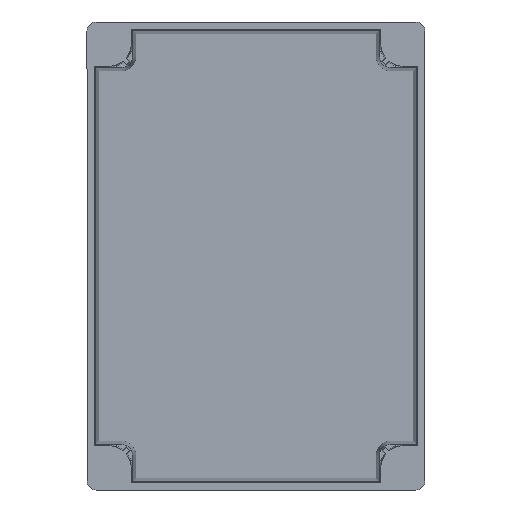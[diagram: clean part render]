
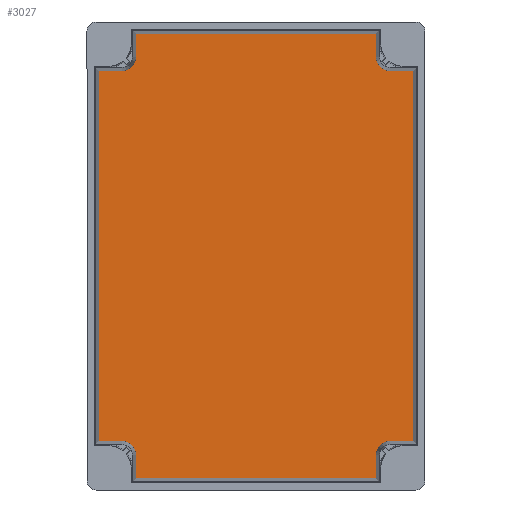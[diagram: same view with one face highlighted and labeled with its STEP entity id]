
A CAD part, front view. The second image highlights one B-rep face of the part: STEP entity #3027.
In plain terms, the highlighted planar face has unit normal (0, -1, 0).
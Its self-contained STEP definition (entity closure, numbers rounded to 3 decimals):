
#1397 = CARTESIAN_POINT ( 'NONE',  ( 46.219, 49.1, -76.634 ) ) ;
#1398 = DIRECTION ( 'NONE',  ( 0., 0., 1. ) ) ;
#1399 = VECTOR ( 'NONE', #1398, 1000. ) ;
#1400 = CARTESIAN_POINT ( 'NONE',  ( 46.219, 49.1, -76.634 ) ) ;
#1401 = LINE ( 'NONE', #1400, #1399 ) ;
#1402 = CARTESIAN_POINT ( 'NONE',  ( 46.219, 49.1, -85.469 ) ) ;
#1407 = CARTESIAN_POINT ( 'NONE',  ( -51.634, 49.1, -71.219 ) ) ;
#1410 = DIRECTION ( 'NONE',  ( 1., 0., 0. ) ) ;
#1411 = VECTOR ( 'NONE', #1410, 1000. ) ;
#1412 = CARTESIAN_POINT ( 'NONE',  ( -47.529, 49.1, -85.469 ) ) ;
#1413 = LINE ( 'NONE', #1412, #1411 ) ;
#1414 = CARTESIAN_POINT ( 'NONE',  ( 51.634, 49.1, -71.219 ) ) ;
#1415 = DIRECTION ( 'NONE',  ( 0., 0., 1. ) ) ;
#1416 = DIRECTION ( 'NONE',  ( 0., 1., 0. ) ) ;
#1417 = CARTESIAN_POINT ( 'NONE',  ( 51.634, 49.1, -76.634 ) ) ;
#1418 = AXIS2_PLACEMENT_3D ( 'NONE', #1417, #1416, #1415 ) ;
#1419 = CIRCLE ( 'NONE', #1418, 5.415 ) ;
#1450 = DIRECTION ( 'NONE',  ( -1., 0., 0. ) ) ;
#1451 = VECTOR ( 'NONE', #1450, 1000. ) ;
#1452 = CARTESIAN_POINT ( 'NONE',  ( 61.779, 49.1, 71.219 ) ) ;
#1453 = LINE ( 'NONE', #1452, #1451 ) ;
#1457 = DIRECTION ( 'NONE',  ( 1., 0., 0. ) ) ;
#1458 = VECTOR ( 'NONE', #1457, 1000. ) ;
#1459 = CARTESIAN_POINT ( 'NONE',  ( -61.779, 49.1, -71.219 ) ) ;
#1460 = LINE ( 'NONE', #1459, #1458 ) ;
#1461 = CIRCLE ( 'NONE', #1471, 5.415 ) ;
#1470 = CARTESIAN_POINT ( 'NONE',  ( -51.634, 49.1, -76.634 ) ) ;
#1471 = AXIS2_PLACEMENT_3D ( 'NONE', #1470, #1474, #1473 ) ;
#1472 = CARTESIAN_POINT ( 'NONE',  ( -46.219, 49.1, -76.634 ) ) ;
#1473 = DIRECTION ( 'NONE',  ( 0., 0., 1. ) ) ;
#1474 = DIRECTION ( 'NONE',  ( 0., 1., 0. ) ) ;
#1479 = DIRECTION ( 'NONE',  ( 1., 0., 0. ) ) ;
#1480 = VECTOR ( 'NONE', #1479, 1000. ) ;
#1481 = CARTESIAN_POINT ( 'NONE',  ( 61.779, 49.1, -71.219 ) ) ;
#1482 = LINE ( 'NONE', #1481, #1480 ) ;
#1483 = CARTESIAN_POINT ( 'NONE',  ( 60.469, 49.1, -71.219 ) ) ;
#1498 = DIRECTION ( 'NONE',  ( 0., 0., 1. ) ) ;
#1499 = VECTOR ( 'NONE', #1498, 1000. ) ;
#1500 = CARTESIAN_POINT ( 'NONE',  ( 60.469, 49.1, -72.529 ) ) ;
#1501 = LINE ( 'NONE', #1500, #1499 ) ;
#1502 = CARTESIAN_POINT ( 'NONE',  ( 60.469, 49.1, 71.219 ) ) ;
#1503 = CARTESIAN_POINT ( 'NONE',  ( -46.219, 49.1, -85.469 ) ) ;
#1504 = DIRECTION ( 'NONE',  ( 0., 0., -1. ) ) ;
#1505 = VECTOR ( 'NONE', #1504, 1000. ) ;
#1506 = CARTESIAN_POINT ( 'NONE',  ( -46.219, 49.1, -76.634 ) ) ;
#1507 = LINE ( 'NONE', #1506, #1505 ) ;
#3027 = ADVANCED_FACE ( 'NONE', ( #4817 ), #4823, .F. ) ;
#3028 = ORIENTED_EDGE ( 'NONE', *, *, #3029, .T. ) ;
#3029 = EDGE_CURVE ( 'NONE', #3030, #3031, #4812, .T. ) ;
#3030 = VERTEX_POINT ( 'NONE', #4723 ) ;
#3031 = VERTEX_POINT ( 'NONE', #4722 ) ;
#3032 = ORIENTED_EDGE ( 'NONE', *, *, #3033, .T. ) ;
#3033 = EDGE_CURVE ( 'NONE', #3031, #3034, #4721, .T. ) ;
#3034 = VERTEX_POINT ( 'NONE', #4717 ) ;
#3035 = ORIENTED_EDGE ( 'NONE', *, *, #3036, .T. ) ;
#3036 = EDGE_CURVE ( 'NONE', #3034, #3037, #4716, .T. ) ;
#3037 = VERTEX_POINT ( 'NONE', #4712 ) ;
#3038 = ORIENTED_EDGE ( 'NONE', *, *, #3039, .T. ) ;
#3039 = EDGE_CURVE ( 'NONE', #3037, #3040, #4736, .T. ) ;
#3040 = VERTEX_POINT ( 'NONE', #4732 ) ;
#3052 = EDGE_LOOP ( 'NONE', ( #3028, #3032, #3035, #3038, #3056, #3059, #3062, #3502, #3495, #3503, #3505, #3439, #3434, #3499, #3507, #3510 ) ) ;
#3056 = ORIENTED_EDGE ( 'NONE', *, *, #3057, .T. ) ;
#3057 = EDGE_CURVE ( 'NONE', #3040, #3058, #4758, .T. ) ;
#3058 = VERTEX_POINT ( 'NONE', #4753 ) ;
#3059 = ORIENTED_EDGE ( 'NONE', *, *, #3060, .T. ) ;
#3060 = EDGE_CURVE ( 'NONE', #3058, #3061, #4752, .T. ) ;
#3061 = VERTEX_POINT ( 'NONE', #4748 ) ;
#3062 = ORIENTED_EDGE ( 'NONE', *, *, #3063, .T. ) ;
#3063 = EDGE_CURVE ( 'NONE', #3061, #3064, #4747, .T. ) ;
#3064 = VERTEX_POINT ( 'NONE', #4743 ) ;
#3433 = VERTEX_POINT ( 'NONE', #1407 ) ;
#3434 = ORIENTED_EDGE ( 'NONE', *, *, #3435, .T. ) ;
#3435 = EDGE_CURVE ( 'NONE', #3441, #3436, #1419, .T. ) ;
#3436 = VERTEX_POINT ( 'NONE', #1414 ) ;
#3437 = EDGE_CURVE ( 'NONE', #3506, #3438, #1413, .T. ) ;
#3438 = VERTEX_POINT ( 'NONE', #1402 ) ;
#3439 = ORIENTED_EDGE ( 'NONE', *, *, #3440, .T. ) ;
#3440 = EDGE_CURVE ( 'NONE', #3438, #3441, #1401, .T. ) ;
#3441 = VERTEX_POINT ( 'NONE', #1397 ) ;
#3495 = ORIENTED_EDGE ( 'NONE', *, *, #3497, .T. ) ;
#3496 = EDGE_CURVE ( 'NONE', #3064, #3433, #1460, .T. ) ;
#3497 = EDGE_CURVE ( 'NONE', #3433, #3498, #1461, .T. ) ;
#3498 = VERTEX_POINT ( 'NONE', #1472 ) ;
#3499 = ORIENTED_EDGE ( 'NONE', *, *, #3500, .T. ) ;
#3500 = EDGE_CURVE ( 'NONE', #3436, #3501, #1482, .T. ) ;
#3501 = VERTEX_POINT ( 'NONE', #1483 ) ;
#3502 = ORIENTED_EDGE ( 'NONE', *, *, #3496, .T. ) ;
#3503 = ORIENTED_EDGE ( 'NONE', *, *, #3504, .T. ) ;
#3504 = EDGE_CURVE ( 'NONE', #3498, #3506, #1507, .T. ) ;
#3505 = ORIENTED_EDGE ( 'NONE', *, *, #3437, .T. ) ;
#3506 = VERTEX_POINT ( 'NONE', #1503 ) ;
#3507 = ORIENTED_EDGE ( 'NONE', *, *, #3508, .T. ) ;
#3508 = EDGE_CURVE ( 'NONE', #3501, #3509, #1501, .T. ) ;
#3509 = VERTEX_POINT ( 'NONE', #1502 ) ;
#3510 = ORIENTED_EDGE ( 'NONE', *, *, #3511, .T. ) ;
#3511 = EDGE_CURVE ( 'NONE', #3509, #3030, #1453, .T. ) ;
#4712 = CARTESIAN_POINT ( 'NONE',  ( -46.219, 49.1, 85.469 ) ) ;
#4713 = DIRECTION ( 'NONE',  ( -1., 0., 0. ) ) ;
#4714 = VECTOR ( 'NONE', #4713, 1000. ) ;
#4715 = CARTESIAN_POINT ( 'NONE',  ( 47.529, 49.1, 85.469 ) ) ;
#4716 = LINE ( 'NONE', #4715, #4714 ) ;
#4717 = CARTESIAN_POINT ( 'NONE',  ( 46.219, 49.1, 85.469 ) ) ;
#4718 = DIRECTION ( 'NONE',  ( 0., 0., 1. ) ) ;
#4719 = VECTOR ( 'NONE', #4718, 1000. ) ;
#4720 = CARTESIAN_POINT ( 'NONE',  ( 46.219, 49.1, 76.634 ) ) ;
#4721 = LINE ( 'NONE', #4720, #4719 ) ;
#4722 = CARTESIAN_POINT ( 'NONE',  ( 46.219, 49.1, 76.634 ) ) ;
#4723 = CARTESIAN_POINT ( 'NONE',  ( 51.634, 49.1, 71.219 ) ) ;
#4724 = DIRECTION ( 'NONE',  ( 0., 0., 1. ) ) ;
#4732 = CARTESIAN_POINT ( 'NONE',  ( -46.219, 49.1, 76.634 ) ) ;
#4733 = DIRECTION ( 'NONE',  ( 0., 0., -1. ) ) ;
#4734 = VECTOR ( 'NONE', #4733, 1000. ) ;
#4735 = CARTESIAN_POINT ( 'NONE',  ( -46.219, 49.1, 76.634 ) ) ;
#4736 = LINE ( 'NONE', #4735, #4734 ) ;
#4743 = CARTESIAN_POINT ( 'NONE',  ( -60.469, 49.1, -71.219 ) ) ;
#4744 = DIRECTION ( 'NONE',  ( 0., 0., -1. ) ) ;
#4745 = VECTOR ( 'NONE', #4744, 1000. ) ;
#4746 = CARTESIAN_POINT ( 'NONE',  ( -60.469, 49.1, 72.529 ) ) ;
#4747 = LINE ( 'NONE', #4746, #4745 ) ;
#4748 = CARTESIAN_POINT ( 'NONE',  ( -60.469, 49.1, 71.219 ) ) ;
#4749 = DIRECTION ( 'NONE',  ( -1., 0., 0. ) ) ;
#4750 = VECTOR ( 'NONE', #4749, 1000. ) ;
#4751 = CARTESIAN_POINT ( 'NONE',  ( -61.779, 49.1, 71.219 ) ) ;
#4752 = LINE ( 'NONE', #4751, #4750 ) ;
#4753 = CARTESIAN_POINT ( 'NONE',  ( -51.634, 49.1, 71.219 ) ) ;
#4754 = DIRECTION ( 'NONE',  ( 0., 0., 1. ) ) ;
#4755 = DIRECTION ( 'NONE',  ( 0., 1., 0. ) ) ;
#4756 = CARTESIAN_POINT ( 'NONE',  ( -51.634, 49.1, 76.634 ) ) ;
#4757 = AXIS2_PLACEMENT_3D ( 'NONE', #4756, #4755, #4754 ) ;
#4758 = CIRCLE ( 'NONE', #4757, 5.415 ) ;
#4809 = DIRECTION ( 'NONE',  ( 0., 1., 0. ) ) ;
#4810 = CARTESIAN_POINT ( 'NONE',  ( 51.634, 49.1, 76.634 ) ) ;
#4811 = AXIS2_PLACEMENT_3D ( 'NONE', #4810, #4809, #4724 ) ;
#4812 = CIRCLE ( 'NONE', #4811, 5.415 ) ;
#4813 = DIRECTION ( 'NONE',  ( 0., 0., 1. ) ) ;
#4814 = DIRECTION ( 'NONE',  ( 0., 1., 0. ) ) ;
#4815 = CARTESIAN_POINT ( 'NONE',  ( -56.75, 49.1, -81.75 ) ) ;
#4816 = AXIS2_PLACEMENT_3D ( 'NONE', #4815, #4814, #4813 ) ;
#4817 = FACE_OUTER_BOUND ( 'NONE', #3052, .T. ) ;
#4823 = PLANE ( 'NONE',  #4816 ) ;
